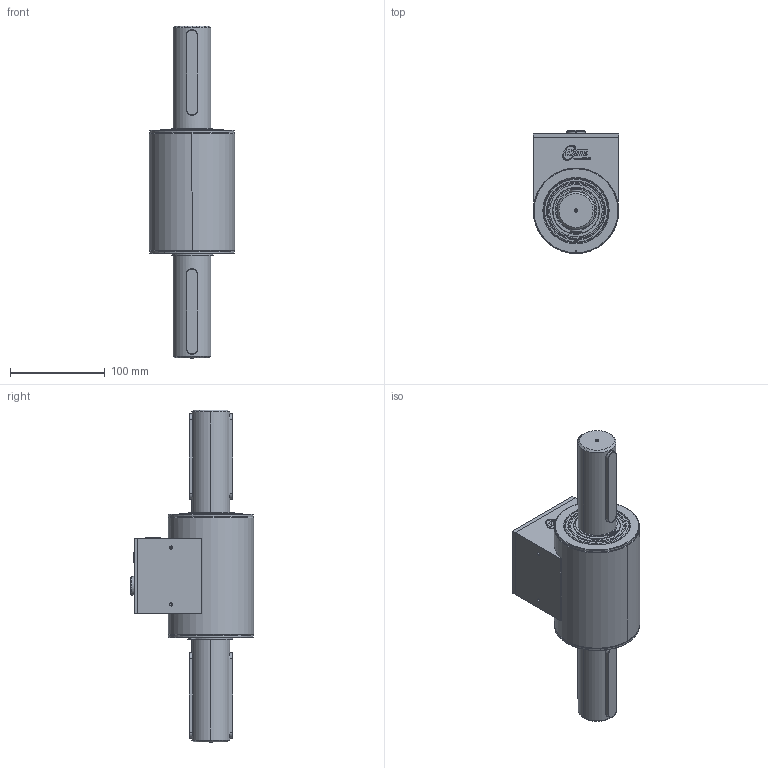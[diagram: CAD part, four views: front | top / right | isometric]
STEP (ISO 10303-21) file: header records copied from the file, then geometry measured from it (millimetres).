
FILE_DESCRIPTION (( 'STEP AP214' ), '1' );
FILE_NAME ('400007-ATS022_Sensor_Mb_1000-2000Nm_Rund_ohne_WS_IP65.STEP', '2016-11-29T12:14:36', ( '' ), ( '' ), 'SwSTEP 2.0', 'SolidWorks 2016', '' );
FILE_SCHEMA (( 'AUTOMOTIVE_DESIGN' ));
Length unit declared in the file: millimetre
Products named in the file (31): 999999-ATM175_Rillenkugellager_6008-2RS1_Standard_11; 999999-ATM175_Rillenkugellager_6008-2RS1_Standard_2; 999999-ATE072_Folientaster beleuchtet_Standard; 400007-ATS022_Sensor_Mb_1000-2000Nm_Rund_ohne_WS_IP65; 999999-ATM175_Rillenkugellager_6008-2RS1_Standard; 400007-ATM020_Deckel_Elektronikgehäuse_Mb_1000-2000Nm; 999999-ATM175_Rillenkugellager_6008-2RS1_Standard_5; 999999-ATM003-Tellerfeder_k_vorgespannt67,5x50,5x0,7_Standard; 400007-ATM011_Rohrgehaeuse_Mb-1000-2000Nm; 999999-ATM175_Rillenkugellager_6008-2RS1_Standard_13; 999999-ATM175_Rillenkugellager_6008-2RS1_Standard_12; Passscheibe DIN 988_DIN 988-55x68x0.5; 999999-ATE042_Buchse-09-0132-90-12_12Pol_Standard; Passfeder_Parallel key A12 x 8 x 90 DIN 6885; 999999-ATM175_Rillenkugellager_6008-2RS1_Standard_6; Seegering DIN 471_Circlip DIN 471 - 40 x 1.75; 999999-ATM175_Rillenkugellager_6008-2RS1_Standard_16; Senkschraube mit Innensechskant DIN 7991_DIN 7991 - M3 x 10 --- 10S; 999999-ATM175_Rillenkugellager_6008-2RS1_Standard_9; 400007-ATM005_Welle40mm_Mb_1000-2000Nm; 999999-ATM175_Rillenkugellager_6008-2RS1_Standard_8; 999999-ATM175_Rillenkugellager_6008-2RS1_Standard_10; 999999-ATM175_Rillenkugellager_6008-2RS1_Standard_14; Senkschraube mit Innensechskant DIN 7991_DIN 7991 - M4 x 10 --- 10S; 400007-ATM014_Lagerdeckel_Mb-1000-2000Nm; 999999-ATM175_Rillenkugellager_6008-2RS1_Standard_7; 999999-ATM175_Rillenkugellager_6008-2RS1_Standard_4; 400007-ATM017_Elektronikgehaeuse_Mb_1000-2000Nm; 999999-ATM175_Rillenkugellager_6008-2RS1_Standard_3; 999999-ATM175_Rillenkugellager_6008-2RS1_Standard_15
Assembly tree (45 placements, depth 3):
  400007-ATS022_Sensor_Mb_1000-2000Nm_Rund_ohne_WS_IP65
    400007-ATM005_Welle40mm_Mb_1000-2000Nm
    400007-ATM011_Rohrgehaeuse_Mb-1000-2000Nm
    Senkschraube mit Innensechskant DIN 7991_DIN 7991 - M3 x 10 --- 10S  x8
    400007-ATM014_Lagerdeckel_Mb-1000-2000Nm  x2
    400007-ATM017_Elektronikgehaeuse_Mb_1000-2000Nm
    Senkschraube mit Innensechskant DIN 7991_DIN 7991 - M4 x 10 --- 10S  x2
    999999-ATE072_Folientaster beleuchtet_Standard
    999999-ATE042_Buchse-09-0132-90-12_12Pol_Standard
    400007-ATM020_Deckel_Elektronikgehäuse_Mb_1000-2000Nm
    Seegering DIN 471_Circlip DIN 471 - 40 x 1.75  x2
    Passscheibe DIN 988_DIN 988-55x68x0.5  x2
    999999-ATM003-Tellerfeder_k_vorgespannt67,5x50,5x0,7_Standard
    999999-ATM175_Rillenkugellager_6008-2RS1_Standard  x2
      999999-ATM175_Rillenkugellager_6008-2RS1_Standard
      999999-ATM175_Rillenkugellager_6008-2RS1_Standard_2
      999999-ATM175_Rillenkugellager_6008-2RS1_Standard_11
      999999-ATM175_Rillenkugellager_6008-2RS1_Standard_8
      999999-ATM175_Rillenkugellager_6008-2RS1_Standard_3
      999999-ATM175_Rillenkugellager_6008-2RS1_Standard_4
      999999-ATM175_Rillenkugellager_6008-2RS1_Standard_7
      999999-ATM175_Rillenkugellager_6008-2RS1_Standard_15
      999999-ATM175_Rillenkugellager_6008-2RS1_Standard_14
      999999-ATM175_Rillenkugellager_6008-2RS1_Standard_5
      999999-ATM175_Rillenkugellager_6008-2RS1_Standard_16
      999999-ATM175_Rillenkugellager_6008-2RS1_Standard_6
      999999-ATM175_Rillenkugellager_6008-2RS1_Standard_13
      999999-ATM175_Rillenkugellager_6008-2RS1_Standard_9
      999999-ATM175_Rillenkugellager_6008-2RS1_Standard_12
      999999-ATM175_Rillenkugellager_6008-2RS1_Standard_10
    Passfeder_Parallel key A12 x 8 x 90 DIN 6885  x4
Bounding box: 90 x 129.79 x 350 mm (x, y, z)
Surface area: 288773.9 mm2 (no closed solid volume)
Topology: 0 solids, 59 shells, 2214 faces, 5069 edges, 2914 vertices
Faces by surface type: cone 830, cylinder 674, plane 451, bspline 255, torus 4
Entity records: 36728 total; most frequent: CARTESIAN_POINT 11270, DIRECTION 5067, ORIENTED_EDGE 4990, EDGE_CURVE 2495, AXIS2_PLACEMENT_3D 1904, VERTEX_POINT 1565, LINE 1259, VECTOR 1259
